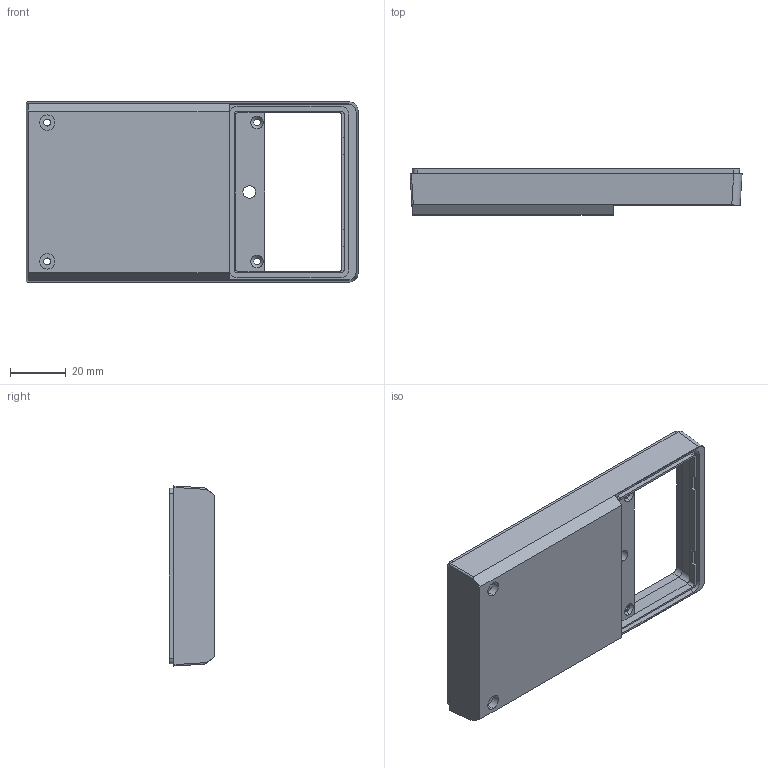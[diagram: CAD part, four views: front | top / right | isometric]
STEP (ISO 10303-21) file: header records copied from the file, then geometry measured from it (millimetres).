
FILE_DESCRIPTION (( 'STEP AP214' ), '1' );
FILE_NAME ('Cuerpo PP86 B.STEP', '2016-11-14T15:08:58', ( 'aaa' ), ( '' ), 'SwSTEP 2.0', 'SolidWorks 2013', '' );
FILE_SCHEMA (( 'AUTOMOTIVE_DESIGN' ));
Length unit declared in the file: millimetre
Products named in the file (1): Cuerpo PP86 B
Bounding box: 119.49 x 16.51 x 64.79 mm (x, y, z)
Volume: 21978.6 mm3; surface area: 24252.8 mm2
Topology: 2 solids, 2 shells, 161 faces, 407 edges, 268 vertices
Faces by surface type: plane 83, cylinder 70, cone 8
Entity records: 4926 total; most frequent: CARTESIAN_POINT 891, DIRECTION 851, ORIENTED_EDGE 814, EDGE_CURVE 407, AXIS2_PLACEMENT_3D 300, VERTEX_POINT 268, VECTOR 251, LINE 251
